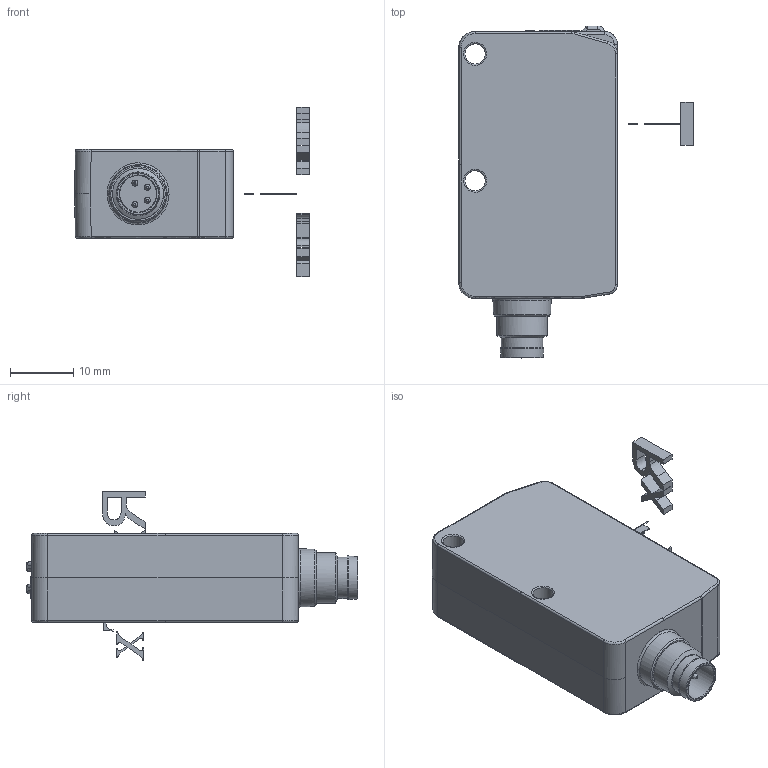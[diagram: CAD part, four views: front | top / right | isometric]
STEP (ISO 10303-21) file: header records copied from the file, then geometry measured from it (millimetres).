
FILE_DESCRIPTION(/* description */ (''),/* implementation_level */ '2;1');
FILE_NAME(/* name */ 'DSD-0143.stp',/* time_stamp */ '2020-09-22T10:38:42+02:00',/* author */ (''),/* organization */ (''),/* preprocessor_version */ 'ST-DEVELOPER v16.7',/* originating_system */ 'SIEMENS PLM Software NX 12.0',/* authorisation */ '');
FILE_SCHEMA (('AUTOMOTIVE_DESIGN { 1 0 10303 214 3 1 1 1 }'));
Length unit declared in the file: millimetre
Products named in the file (1): MBra20D017FA1teq
Bounding box: 37 x 52.3 x 26.68 mm (x, y, z)
Volume: 14818.5 mm3; surface area: 5376.2 mm2
Topology: 7 solids, 7 shells, 526 faces, 1289 edges, 796 vertices
Faces by surface type: bspline 526
Entity records: 20623 total; most frequent: CARTESIAN_POINT 11211, ORIENTED_EDGE 2462, EDGE_CURVE 1231, VERTEX_POINT 791, B_SPLINE_CURVE_WITH_KNOTS 760, EDGE_LOOP 602, ADVANCED_FACE 525, FACE_OUTER_BOUND 465
